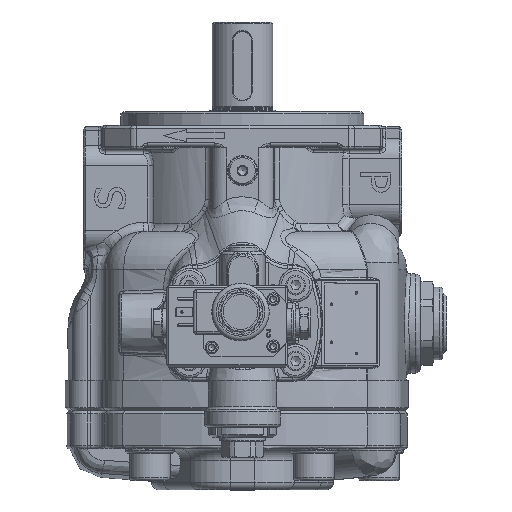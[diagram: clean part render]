
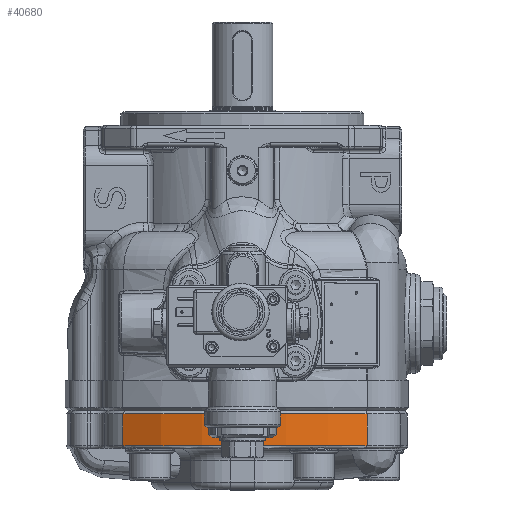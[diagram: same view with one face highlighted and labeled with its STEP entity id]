
A CAD part, top view. The second image highlights one B-rep face of the part: STEP entity #40680.
In plain terms, the highlighted cylindrical face has radius 161 mm (diameter 322 mm), a partial arc.
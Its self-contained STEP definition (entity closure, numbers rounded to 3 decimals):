
#2845=LINE('',#79741,#5180);
#2925=LINE('',#80706,#5260);
#5180=VECTOR('',#52766,10.);
#5260=VECTOR('',#53320,10.);
#6187=CYLINDRICAL_SURFACE('',#44355,161.);
#9014=FACE_OUTER_BOUND('',#11445,.T.);
#11445=EDGE_LOOP('',(#33396,#33397,#33398,#33399));
#14592=CIRCLE('',#44172,161.);
#14707=CIRCLE('',#44356,161.);
#17841=VERTEX_POINT('',#79735);
#17843=VERTEX_POINT('',#79739);
#17855=VERTEX_POINT('',#79777);
#17995=VERTEX_POINT('',#80704);
#23039=EDGE_CURVE('',#17841,#17843,#2845,.T.);
#23090=EDGE_CURVE('',#17855,#17843,#14592,.T.);
#23284=EDGE_CURVE('',#17841,#17995,#14707,.T.);
#23285=EDGE_CURVE('',#17995,#17855,#2925,.T.);
#33396=ORIENTED_EDGE('',*,*,#23284,.F.);
#33397=ORIENTED_EDGE('',*,*,#23039,.T.);
#33398=ORIENTED_EDGE('',*,*,#23090,.F.);
#33399=ORIENTED_EDGE('',*,*,#23285,.F.);
#40680=ADVANCED_FACE('',(#9014),#6187,.T.);
#44172=AXIS2_PLACEMENT_3D('',#79909,#52883,#52884);
#44355=AXIS2_PLACEMENT_3D('',#80703,#53316,#53317);
#44356=AXIS2_PLACEMENT_3D('',#80705,#53318,#53319);
#52766=DIRECTION('',(0.,-1.,0.));
#52883=DIRECTION('center_axis',(0.,-1.,0.));
#52884=DIRECTION('ref_axis',(-0.032,0.,0.999));
#53316=DIRECTION('center_axis',(0.,-1.,0.));
#53317=DIRECTION('ref_axis',(0.527,0.,-0.85));
#53318=DIRECTION('center_axis',(0.,1.,0.));
#53319=DIRECTION('ref_axis',(-0.527,0.,0.85));
#53320=DIRECTION('',(0.,-1.,0.));
#79735=CARTESIAN_POINT('',(-75.133,-98.812,84.937));
#79739=CARTESIAN_POINT('',(-75.133,-119.812,84.937));
#79741=CARTESIAN_POINT('',(-75.133,-96.812,84.937));
#79777=CARTESIAN_POINT('',(85.564,-119.812,90.06));
#79909=CARTESIAN_POINT('Origin',(9.661,-119.812,-51.925));
#80703=CARTESIAN_POINT('Origin',(9.661,-96.812,-51.925));
#80704=CARTESIAN_POINT('',(85.564,-98.812,90.06));
#80705=CARTESIAN_POINT('Origin',(9.661,-98.812,-51.925));
#80706=CARTESIAN_POINT('',(85.564,-96.812,90.06));
